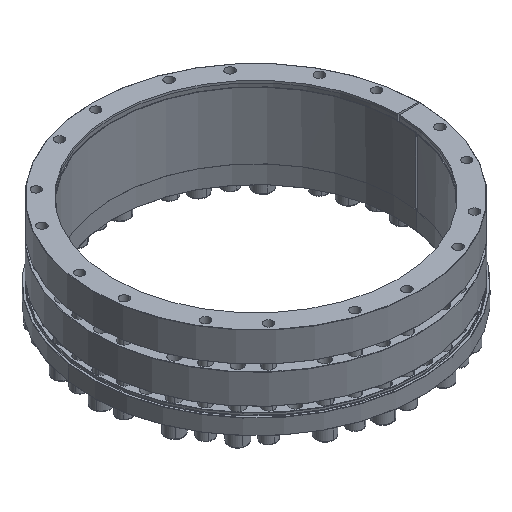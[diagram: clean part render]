
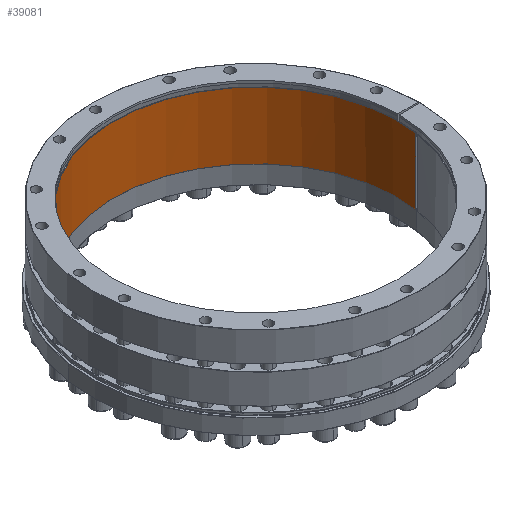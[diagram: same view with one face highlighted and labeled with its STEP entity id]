
A CAD part, isometric view. The second image highlights one B-rep face of the part: STEP entity #39081.
In plain terms, the highlighted cylindrical face has radius 280 mm (diameter 560 mm), a partial arc.
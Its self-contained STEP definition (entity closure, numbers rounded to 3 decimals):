
#440 = VERTEX_POINT ( 'NONE', #28608 ) ;
#1296 = DIRECTION ( 'NONE',  ( -0.99, 0.143, 0. ) ) ;
#4980 = CARTESIAN_POINT ( 'NONE',  ( 277.102, -40.178, -11.004 ) ) ;
#5873 = ORIENTED_EDGE ( 'NONE', *, *, #9499, .T. ) ;
#5885 = CARTESIAN_POINT ( 'NONE',  ( 277.45, -37.702, -11.004 ) ) ;
#6261 = CARTESIAN_POINT ( 'NONE',  ( -276.733, 42.65, -11.004 ) ) ;
#6338 = CARTESIAN_POINT ( 'NONE',  ( 277.102, -40.178, -142.004 ) ) ;
#9100 = ORIENTED_EDGE ( 'NONE', *, *, #47074, .F. ) ;
#9163 = ORIENTED_EDGE ( 'NONE', *, *, #42660, .T. ) ;
#9221 = AXIS2_PLACEMENT_3D ( 'NONE', #22047, #51083, #26212 ) ;
#9499 = EDGE_CURVE ( 'NONE', #14029, #30676, #50611, .T. ) ;
#10598 = VERTEX_POINT ( 'NONE', #38802 ) ;
#11785 = VECTOR ( 'NONE', #26730, 1000. ) ;
#12943 = EDGE_LOOP ( 'NONE', ( #15008, #9100, #25770, #16180, #43965, #20579, #9163, #5873 ) ) ;
#13603 = CIRCLE ( 'NONE', #40940, 280. ) ;
#13954 = CIRCLE ( 'NONE', #50362, 280. ) ;
#14029 = VERTEX_POINT ( 'NONE', #24643 ) ;
#14507 = CARTESIAN_POINT ( 'NONE',  ( 0., 0., -142.004 ) ) ;
#14642 = CIRCLE ( 'NONE', #9221, 280. ) ;
#15008 = ORIENTED_EDGE ( 'NONE', *, *, #17561, .F. ) ;
#16178 = DIRECTION ( 'NONE',  ( 0.99, -0.143, 0. ) ) ;
#16180 = ORIENTED_EDGE ( 'NONE', *, *, #22101, .T. ) ;
#17457 = VERTEX_POINT ( 'NONE', #6338 ) ;
#17561 = EDGE_CURVE ( 'NONE', #51812, #30676, #51569, .T. ) ;
#18382 = DIRECTION ( 'NONE',  ( 0., 0., 1. ) ) ;
#18475 = VECTOR ( 'NONE', #43913, 1000. ) ;
#18590 = EDGE_CURVE ( 'NONE', #10598, #47049, #22707, .T. ) ;
#18652 = DIRECTION ( 'NONE',  ( 0.99, -0.143, 0. ) ) ;
#20579 = ORIENTED_EDGE ( 'NONE', *, *, #40427, .T. ) ;
#21156 = LINE ( 'NONE', #6261, #52968 ) ;
#21655 = FACE_OUTER_BOUND ( 'NONE', #12943, .T. ) ;
#22047 = CARTESIAN_POINT ( 'NONE',  ( 0., 0., -141.504 ) ) ;
#22101 = EDGE_CURVE ( 'NONE', #440, #10598, #14642, .T. ) ;
#22707 = LINE ( 'NONE', #30754, #11785 ) ;
#23236 = CARTESIAN_POINT ( 'NONE',  ( -277.102, 40.178, -11.004 ) ) ;
#24643 = CARTESIAN_POINT ( 'NONE',  ( -276.733, 42.65, -141.504 ) ) ;
#25770 = ORIENTED_EDGE ( 'NONE', *, *, #52604, .T. ) ;
#25982 = DIRECTION ( 'NONE',  ( 0., 0., 1. ) ) ;
#26212 = DIRECTION ( 'NONE',  ( -0.99, 0.143, 0. ) ) ;
#26730 = DIRECTION ( 'NONE',  ( 0., 0., 1. ) ) ;
#27429 = CYLINDRICAL_SURFACE ( 'NONE', #32844, 280. ) ;
#28608 = CARTESIAN_POINT ( 'NONE',  ( 277.102, -40.178, -141.504 ) ) ;
#29511 = DIRECTION ( 'NONE',  ( 0., 0., 1. ) ) ;
#30676 = VERTEX_POINT ( 'NONE', #50723 ) ;
#30754 = CARTESIAN_POINT ( 'NONE',  ( 277.45, -37.702, -11.004 ) ) ;
#30805 = DIRECTION ( 'NONE',  ( 0., 0., -1. ) ) ;
#32267 = DIRECTION ( 'NONE',  ( 0., 0., 1. ) ) ;
#32682 = CARTESIAN_POINT ( 'NONE',  ( -277.102, 40.178, -142.004 ) ) ;
#32844 = AXIS2_PLACEMENT_3D ( 'NONE', #49188, #32267, #16178 ) ;
#38802 = CARTESIAN_POINT ( 'NONE',  ( 277.45, -37.702, -141.504 ) ) ;
#39081 = ADVANCED_FACE ( 'NONE', ( #21655 ), #27429, .F. ) ;
#40150 = VECTOR ( 'NONE', #29511, 1000. ) ;
#40427 = EDGE_CURVE ( 'NONE', #47049, #49653, #13954, .T. ) ;
#40940 = AXIS2_PLACEMENT_3D ( 'NONE', #14507, #43466, #18652 ) ;
#41482 = LINE ( 'NONE', #4980, #40150 ) ;
#42399 = AXIS2_PLACEMENT_3D ( 'NONE', #50868, #25982, #1296 ) ;
#42660 = EDGE_CURVE ( 'NONE', #49653, #14029, #21156, .T. ) ;
#43197 = CARTESIAN_POINT ( 'NONE',  ( 0., 0., -11.004 ) ) ;
#43466 = DIRECTION ( 'NONE',  ( 0., 0., 1. ) ) ;
#43913 = DIRECTION ( 'NONE',  ( 0., 0., 1. ) ) ;
#43965 = ORIENTED_EDGE ( 'NONE', *, *, #18590, .T. ) ;
#47049 = VERTEX_POINT ( 'NONE', #5885 ) ;
#47074 = EDGE_CURVE ( 'NONE', #17457, #51812, #13603, .T. ) ;
#47389 = DIRECTION ( 'NONE',  ( 0.99, -0.143, 0. ) ) ;
#49188 = CARTESIAN_POINT ( 'NONE',  ( 0., 0., -11.004 ) ) ;
#49653 = VERTEX_POINT ( 'NONE', #53242 ) ;
#50362 = AXIS2_PLACEMENT_3D ( 'NONE', #43197, #18382, #47389 ) ;
#50611 = CIRCLE ( 'NONE', #42399, 280. ) ;
#50723 = CARTESIAN_POINT ( 'NONE',  ( -277.102, 40.178, -141.504 ) ) ;
#50868 = CARTESIAN_POINT ( 'NONE',  ( 0., 0., -141.504 ) ) ;
#51083 = DIRECTION ( 'NONE',  ( 0., 0., 1. ) ) ;
#51569 = LINE ( 'NONE', #23236, #18475 ) ;
#51812 = VERTEX_POINT ( 'NONE', #32682 ) ;
#52604 = EDGE_CURVE ( 'NONE', #17457, #440, #41482, .T. ) ;
#52968 = VECTOR ( 'NONE', #30805, 1000. ) ;
#53242 = CARTESIAN_POINT ( 'NONE',  ( -276.733, 42.65, -11.004 ) ) ;
